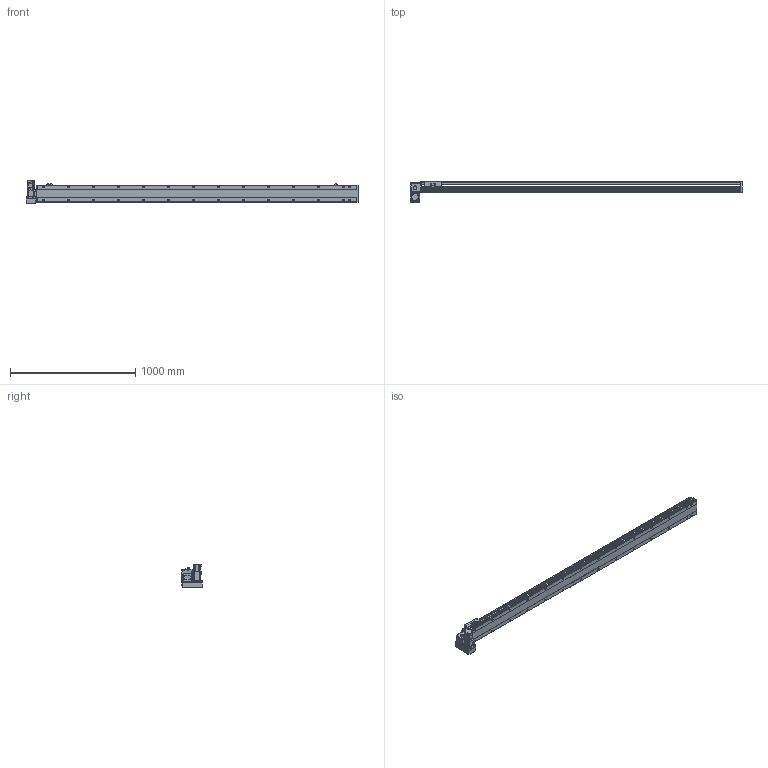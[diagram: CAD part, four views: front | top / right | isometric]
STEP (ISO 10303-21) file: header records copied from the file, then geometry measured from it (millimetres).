
FILE_DESCRIPTION( ( 'STEP AP214' ), '1' );
FILE_NAME( 'x:/temp/worker_6/temp/exporttempdir_5396_109_RIWww/format_0/PBS140S-P40-S2300-LD-T40-C1-N(0).stp', '2022-06-09T00:28:49', ( 'License CC BY-ND 4.0' ), ( 'CADENAS' ), ' ', 'PARTsolutions', ' ' );
FILE_SCHEMA( ( 'AUTOMOTIVE_DESIGN { 1 0 10303 214 1 1 1 1 }' ) );
Length unit declared in the file: millimetre
Products named in the file (7): PBS140S-P40-S2300-LD-T40-C1-N(0); _PBS140S-S2300()_body; _PBS140ST-LD_motors; _T40-p1; _PBS140S_sliser; _PBS140S_plant; _PBS140S_sensor
Assembly tree (8 placements, depth 2):
  PBS140S-P40-S2300-LD-T40-C1-N(0)
    _PBS140S-S2300()_body
    _PBS140ST-LD_motors
    _T40-p1
    _PBS140S_sliser
    _PBS140S_plant
    _PBS140S_sensor  x3
Bounding box: 2654 x 172.5 x 189.7 mm (x, y, z)
Volume: 12957642.5 mm3; surface area: 2188484.9 mm2
Topology: 8 solids, 8 shells, 1195 faces, 3151 edges, 2061 vertices
Faces by surface type: plane 738, cylinder 393, cone 54, sphere 8, torus 2
Full cylindrical faces by diameter (mm): 3.242 x4, 4 x2, 4.134 x4, 4.4 x8, 4.5 x2, 4.8 x4, 4.917 x36, 5.5 x7, 6 x2, 7 x30, 7.5 x8, 8 x12, 8.5 x4, 10.5 x28, 14 x1, 30 x2, 50 x2
Entity records: 44188 total; most frequent: CARTESIAN_POINT 7414, DIRECTION 5768, ORIENTED_EDGE 5422, EDGE_CURVE 2711, AXIS2_PLACEMENT_3D 2039, VERTEX_POINT 1897, LINE 1690, VECTOR 1690
